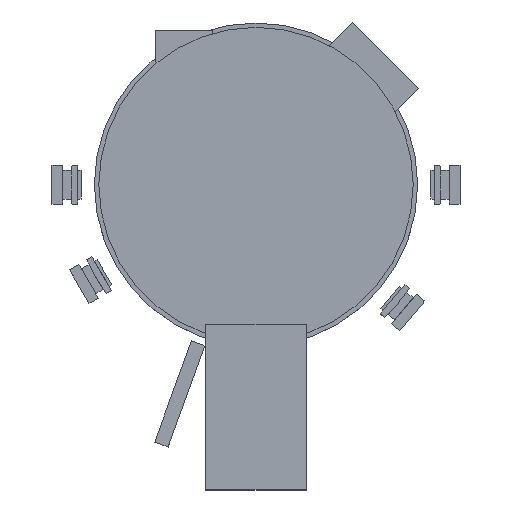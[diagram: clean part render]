
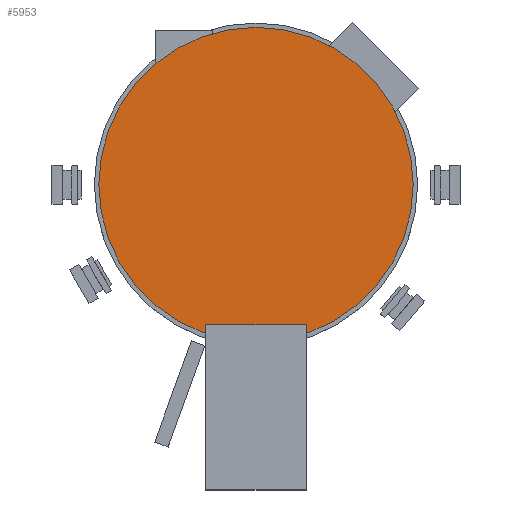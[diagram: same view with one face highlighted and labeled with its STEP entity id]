
A CAD part, top view. The second image highlights one B-rep face of the part: STEP entity #5953.
In plain terms, the highlighted planar face has unit normal (0, 0, 1).
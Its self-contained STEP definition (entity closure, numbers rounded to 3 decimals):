
#5868 = VERTEX_POINT('',#5869);
#5869 = CARTESIAN_POINT('',(21.88,0.,19.));
#5876 = CYLINDRICAL_SURFACE('',#5877,21.88);
#5877 = AXIS2_PLACEMENT_3D('',#5878,#5879,#5880);
#5878 = CARTESIAN_POINT('',(0.,0.,18.9));
#5879 = DIRECTION('',(-0.,-0.,-1.));
#5880 = DIRECTION('',(1.,0.,0.));
#5895 = EDGE_CURVE('',#5868,#5868,#5896,.T.);
#5896 = SURFACE_CURVE('',#5897,(#5902,#5909),.PCURVE_S1.);
#5897 = CIRCLE('',#5898,21.88);
#5898 = AXIS2_PLACEMENT_3D('',#5899,#5900,#5901);
#5899 = CARTESIAN_POINT('',(0.,0.,19.));
#5900 = DIRECTION('',(0.,0.,1.));
#5901 = DIRECTION('',(1.,0.,0.));
#5902 = PCURVE('',#5876,#5903);
#5903 = DEFINITIONAL_REPRESENTATION('',(#5904),#5908);
#5904 = LINE('',#5905,#5906);
#5905 = CARTESIAN_POINT('',(-0.,-0.1));
#5906 = VECTOR('',#5907,1.);
#5907 = DIRECTION('',(-1.,0.));
#5908 = ( GEOMETRIC_REPRESENTATION_CONTEXT(2) 
PARAMETRIC_REPRESENTATION_CONTEXT() REPRESENTATION_CONTEXT('2D SPACE',''
  ) );
#5909 = PCURVE('',#5910,#5915);
#5910 = PLANE('',#5911);
#5911 = AXIS2_PLACEMENT_3D('',#5912,#5913,#5914);
#5912 = CARTESIAN_POINT('',(0.,0.,19.)
  );
#5913 = DIRECTION('',(0.,0.,1.));
#5914 = DIRECTION('',(1.,0.,-0.));
#5915 = DEFINITIONAL_REPRESENTATION('',(#5916),#5920);
#5916 = CIRCLE('',#5917,21.88);
#5917 = AXIS2_PLACEMENT_2D('',#5918,#5919);
#5918 = CARTESIAN_POINT('',(0.,0.));
#5919 = DIRECTION('',(1.,0.));
#5920 = ( GEOMETRIC_REPRESENTATION_CONTEXT(2) 
PARAMETRIC_REPRESENTATION_CONTEXT() REPRESENTATION_CONTEXT('2D SPACE',''
  ) );
#5953 = ADVANCED_FACE('',(#5954),#5910,.T.);
#5954 = FACE_BOUND('',#5955,.T.);
#5955 = EDGE_LOOP('',(#5956));
#5956 = ORIENTED_EDGE('',*,*,#5895,.T.);
